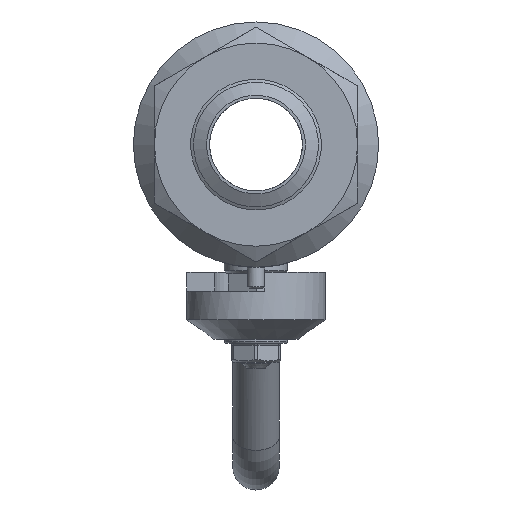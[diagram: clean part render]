
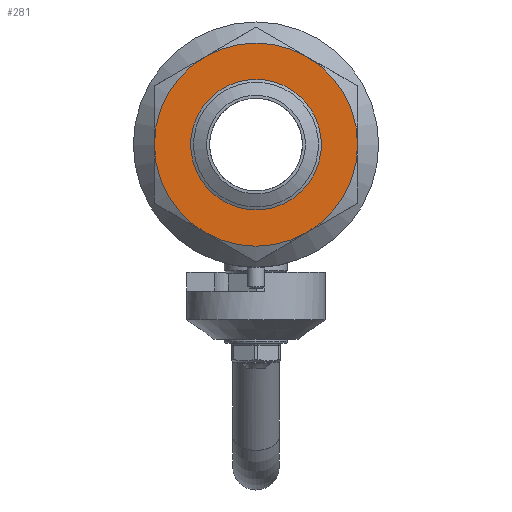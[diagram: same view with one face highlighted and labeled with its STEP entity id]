
A CAD part, left-side view. The second image highlights one B-rep face of the part: STEP entity #281.
In plain terms, the highlighted planar face has unit normal (-1, 0, 0).
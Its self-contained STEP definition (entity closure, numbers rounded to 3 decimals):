
#281=ADVANCED_FACE('',(#2492,#2494),#2496,.T.);
#2492=FACE_BOUND('',#2493,.T.);
#2493=EDGE_LOOP('',(#3812));
#2494=FACE_OUTER_BOUND('',#2495,.T.);
#2495=EDGE_LOOP('',(#3813,#3814,#3815,#3816,#3817,#3818));
#2496=PLANE('',#2497);
#2497=AXIS2_PLACEMENT_3D('',#2498,#2499,#2500);
#2498=CARTESIAN_POINT('',(-101.,0.,0.));
#2499=DIRECTION('',(-1.,0.,0.));
#2500=DIRECTION('',(0.,0.866,0.5));
#3812=ORIENTED_EDGE('',*,*,#5075,.T.);
#3813=ORIENTED_EDGE('',*,*,#5066,.F.);
#3814=ORIENTED_EDGE('',*,*,#5071,.F.);
#3815=ORIENTED_EDGE('',*,*,#5070,.F.);
#3816=ORIENTED_EDGE('',*,*,#5069,.F.);
#3817=ORIENTED_EDGE('',*,*,#5068,.F.);
#3818=ORIENTED_EDGE('',*,*,#5067,.F.);
#5066=EDGE_CURVE('',#5766,#5726,#5813,.T.);
#5067=EDGE_CURVE('',#5726,#5734,#5814,.T.);
#5068=EDGE_CURVE('',#5734,#5742,#5815,.T.);
#5069=EDGE_CURVE('',#5742,#5749,#5816,.T.);
#5070=EDGE_CURVE('',#5749,#5758,#5817,.T.);
#5071=EDGE_CURVE('',#5758,#5766,#5818,.T.);
#5075=EDGE_CURVE('',#5824,#5824,#5825,.T.);
#5726=VERTEX_POINT('',#9455);
#5734=VERTEX_POINT('',#9521);
#5742=VERTEX_POINT('',#9587);
#5749=VERTEX_POINT('',#9649);
#5758=VERTEX_POINT('',#9719);
#5766=VERTEX_POINT('',#9785);
#5813=CIRCLE('',#10163,35.);
#5814=CIRCLE('',#10167,35.);
#5815=CIRCLE('',#10171,35.);
#5816=CIRCLE('',#10175,35.);
#5817=CIRCLE('',#10179,35.);
#5818=CIRCLE('',#10183,35.);
#5824=VERTEX_POINT('',#10200);
#5825=CIRCLE('',#10201,22.5);
#9455=CARTESIAN_POINT('',(-101.,35.,0.));
#9521=CARTESIAN_POINT('',(-101.,17.5,30.311));
#9587=CARTESIAN_POINT('',(-101.,-17.5,30.311));
#9649=CARTESIAN_POINT('',(-101.,-35.,0.));
#9719=CARTESIAN_POINT('',(-101.,-17.5,-30.311));
#9785=CARTESIAN_POINT('',(-101.,17.5,-30.311));
#10163=AXIS2_PLACEMENT_3D('',#10164,#10165,#10166);
#10164=CARTESIAN_POINT('',(-101.,0.,0.));
#10165=DIRECTION('',(1.,0.,0.));
#10166=DIRECTION('',(0.,0.5,-0.866));
#10167=AXIS2_PLACEMENT_3D('',#10168,#10169,#10170);
#10168=CARTESIAN_POINT('',(-101.,0.,0.));
#10169=DIRECTION('',(1.,0.,0.));
#10170=DIRECTION('',(0.,1.,0.));
#10171=AXIS2_PLACEMENT_3D('',#10172,#10173,#10174);
#10172=CARTESIAN_POINT('',(-101.,0.,0.));
#10173=DIRECTION('',(1.,0.,0.));
#10174=DIRECTION('',(0.,0.5,0.866));
#10175=AXIS2_PLACEMENT_3D('',#10176,#10177,#10178);
#10176=CARTESIAN_POINT('',(-101.,0.,0.));
#10177=DIRECTION('',(1.,0.,0.));
#10178=DIRECTION('',(0.,-0.5,0.866));
#10179=AXIS2_PLACEMENT_3D('',#10180,#10181,#10182);
#10180=CARTESIAN_POINT('',(-101.,0.,0.));
#10181=DIRECTION('',(1.,0.,0.));
#10182=DIRECTION('',(0.,-1.,0.));
#10183=AXIS2_PLACEMENT_3D('',#10184,#10185,#10186);
#10184=CARTESIAN_POINT('',(-101.,0.,0.));
#10185=DIRECTION('',(1.,0.,0.));
#10186=DIRECTION('',(0.,-0.5,-0.866));
#10200=CARTESIAN_POINT('',(-101.,-9.349,-20.466));
#10201=AXIS2_PLACEMENT_3D('',#10202,#10203,#10204);
#10202=CARTESIAN_POINT('',(-101.,0.,0.));
#10203=DIRECTION('',(1.,0.,0.));
#10204=DIRECTION('',(0.,-0.415,-0.91));
